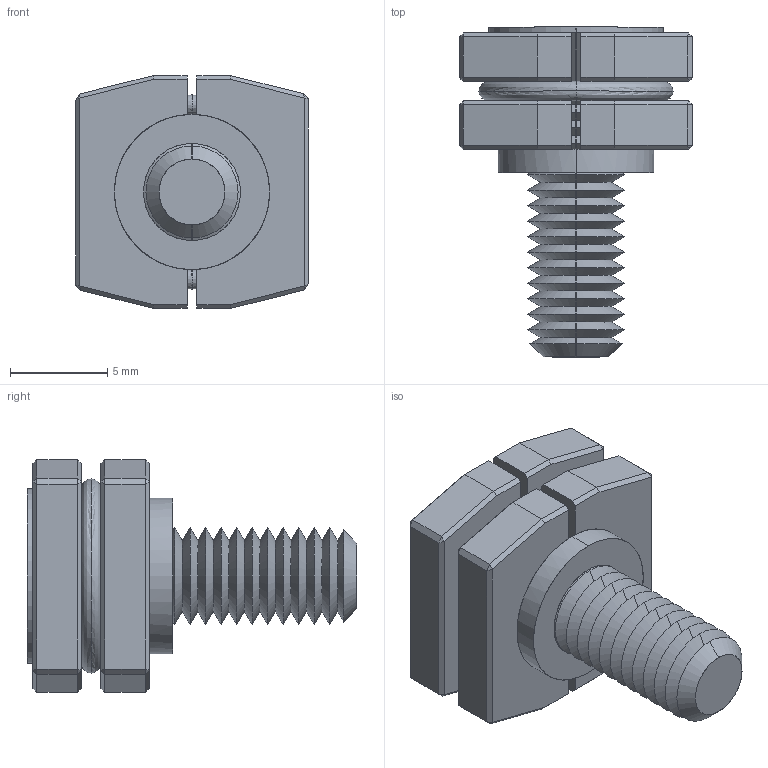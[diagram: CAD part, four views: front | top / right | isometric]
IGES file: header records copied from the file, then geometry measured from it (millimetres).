
Start section: SolidWorks IGES file using analytic representation for surfaces
Global section: file name: C:\Users\liam_\OneDrive\Documents\WORK\Work for WixRoyd\Job Files\J-00025 - Matt Davis CAD - 20191106\04. CAD Drawings\Wixroyd20191106\12454_v2\12454_v2_20191115_IGES\Default.igs; native system: SolidWorks 2017; preprocessor: SolidWorks 2017; author: liam_; date: 191115.170649; units: millimetre
Bounding box: 12 x 17 x 12 mm (x, y, z)
Surface area: 1440.9 mm2 (no closed solid volume)
Topology: 0 solids, 0 shells, 209 faces, 1194 edges, 1192 vertices
Faces by surface type: bspline 125, revolution 84
